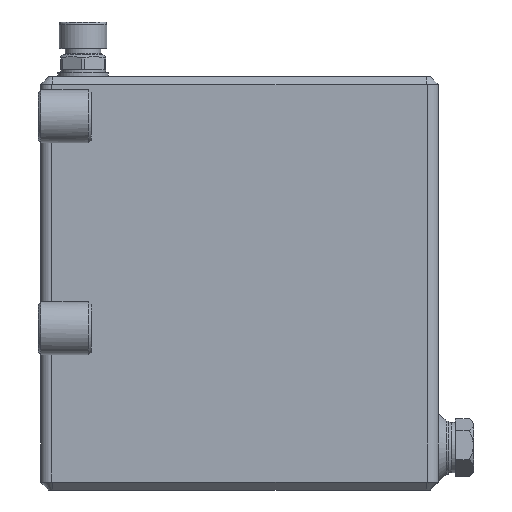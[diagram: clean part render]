
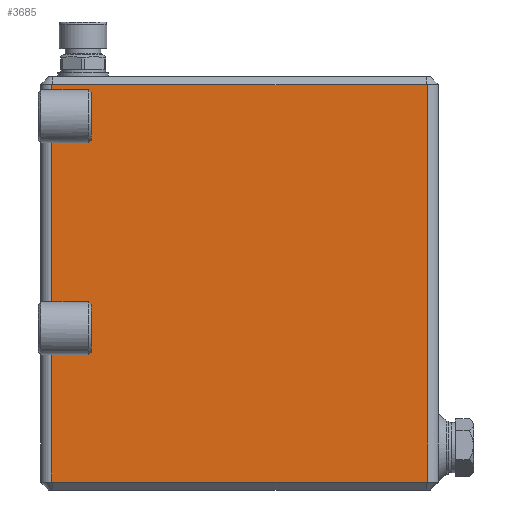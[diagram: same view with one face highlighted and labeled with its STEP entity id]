
A CAD part, left-side view. The second image highlights one B-rep face of the part: STEP entity #3685.
In plain terms, the highlighted planar face has unit normal (-1, 0, 0).
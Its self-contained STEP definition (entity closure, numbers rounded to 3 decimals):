
#72=LINE('',#7799,#291);
#74=LINE('',#7803,#293);
#75=LINE('',#7805,#294);
#77=LINE('',#7809,#296);
#78=LINE('',#7811,#297);
#80=LINE('',#7815,#299);
#81=LINE('',#7817,#300);
#83=LINE('',#7821,#302);
#84=LINE('',#7823,#303);
#85=LINE('',#7825,#304);
#87=LINE('',#7833,#306);
#88=LINE('',#7834,#307);
#89=LINE('',#7836,#308);
#112=LINE('',#7885,#331);
#113=LINE('',#7887,#332);
#121=LINE('',#7941,#340);
#123=LINE('',#7944,#342);
#124=LINE('',#7946,#343);
#291=VECTOR('',#6612,1000.);
#293=VECTOR('',#6616,1000.);
#294=VECTOR('',#6619,1000.);
#296=VECTOR('',#6623,1000.);
#297=VECTOR('',#6626,1000.);
#299=VECTOR('',#6630,1000.);
#300=VECTOR('',#6633,1000.);
#302=VECTOR('',#6637,1000.);
#303=VECTOR('',#6640,1000.);
#304=VECTOR('',#6643,1000.);
#306=VECTOR('',#6649,1000.);
#307=VECTOR('',#6650,1000.);
#308=VECTOR('',#6653,1000.);
#331=VECTOR('',#6708,1000.);
#332=VECTOR('',#6711,1000.);
#340=VECTOR('',#6775,1000.);
#342=VECTOR('',#6779,1000.);
#343=VECTOR('',#6780,1000.);
#1043=ORIENTED_EDGE('',*,*,#1742,.T.);
#1044=ORIENTED_EDGE('',*,*,#1741,.T.);
#1045=ORIENTED_EDGE('',*,*,#1740,.T.);
#1046=ORIENTED_EDGE('',*,*,#1738,.T.);
#1047=ORIENTED_EDGE('',*,*,#1737,.T.);
#1048=ORIENTED_EDGE('',*,*,#1747,.T.);
#1049=ORIENTED_EDGE('',*,*,#1735,.T.);
#1050=ORIENTED_EDGE('',*,*,#1734,.T.);
#1051=ORIENTED_EDGE('',*,*,#1732,.T.);
#1052=ORIENTED_EDGE('',*,*,#1731,.T.);
#1053=ORIENTED_EDGE('',*,*,#1746,.T.);
#1054=ORIENTED_EDGE('',*,*,#1748,.F.);
#1055=ORIENTED_EDGE('',*,*,#1729,.F.);
#1056=ORIENTED_EDGE('',*,*,#1774,.F.);
#1057=ORIENTED_EDGE('',*,*,#1775,.T.);
#1058=ORIENTED_EDGE('',*,*,#1797,.F.);
#1059=ORIENTED_EDGE('',*,*,#1799,.F.);
#1060=ORIENTED_EDGE('',*,*,#1800,.F.);
#1729=EDGE_CURVE('',#2163,#2131,#72,.T.);
#1731=EDGE_CURVE('',#2173,#2130,#74,.T.);
#1732=EDGE_CURVE('',#2116,#2173,#75,.T.);
#1734=EDGE_CURVE('',#2174,#2116,#77,.T.);
#1735=EDGE_CURVE('',#2129,#2174,#78,.T.);
#1737=EDGE_CURVE('',#2175,#2128,#80,.T.);
#1738=EDGE_CURVE('',#2122,#2175,#81,.T.);
#1740=EDGE_CURVE('',#2176,#2122,#83,.T.);
#1741=EDGE_CURVE('',#2127,#2176,#84,.T.);
#1742=EDGE_CURVE('',#2177,#2127,#85,.T.);
#1746=EDGE_CURVE('',#2130,#2180,#87,.T.);
#1747=EDGE_CURVE('',#2128,#2129,#88,.T.);
#1748=EDGE_CURVE('',#2131,#2180,#89,.T.);
#1774=EDGE_CURVE('',#2190,#2163,#112,.T.);
#1775=EDGE_CURVE('',#2190,#2191,#113,.T.);
#1797=EDGE_CURVE('',#2207,#2191,#121,.T.);
#1799=EDGE_CURVE('',#2209,#2207,#123,.T.);
#1800=EDGE_CURVE('',#2177,#2209,#124,.T.);
#2116=VERTEX_POINT('',#7638);
#2122=VERTEX_POINT('',#7653);
#2127=VERTEX_POINT('',#7667);
#2128=VERTEX_POINT('',#7671);
#2129=VERTEX_POINT('',#7675);
#2130=VERTEX_POINT('',#7679);
#2131=VERTEX_POINT('',#7683);
#2163=VERTEX_POINT('',#7768);
#2173=VERTEX_POINT('',#7802);
#2174=VERTEX_POINT('',#7808);
#2175=VERTEX_POINT('',#7814);
#2176=VERTEX_POINT('',#7820);
#2177=VERTEX_POINT('',#7826);
#2180=VERTEX_POINT('',#7832);
#2190=VERTEX_POINT('',#7884);
#2191=VERTEX_POINT('',#7888);
#2207=VERTEX_POINT('',#7939);
#2209=VERTEX_POINT('',#7945);
#2841=EDGE_LOOP('',(#1043,#1044,#1045,#1046,#1047,#1048,#1049,#1050,#1051,
#1052,#1053,#1054,#1055,#1056,#1057,#1058,#1059,#1060));
#3243=FACE_BOUND('',#2841,.T.);
#3486=PLANE('',#5883);
#3685=ADVANCED_FACE('',(#3243),#3486,.F.);
#5883=AXIS2_PLACEMENT_3D('',#7943,#6777,#6778);
#6612=DIRECTION('',(0.,1.,0.));
#6616=DIRECTION('',(0.,1.,0.));
#6619=DIRECTION('',(0.,0.,-1.));
#6623=DIRECTION('',(0.,0.,-1.));
#6626=DIRECTION('',(0.,-1.,0.));
#6630=DIRECTION('',(0.,1.,0.));
#6633=DIRECTION('',(0.,0.,-1.));
#6637=DIRECTION('',(0.,0.,-1.));
#6640=DIRECTION('',(0.,-1.,0.));
#6643=DIRECTION('',(0.,0.,-1.));
#6649=DIRECTION('',(0.,0.,-1.));
#6650=DIRECTION('',(0.,0.,-1.));
#6653=DIRECTION('',(0.,1.,0.));
#6708=DIRECTION('',(0.,1.,0.));
#6711=DIRECTION('',(0.,0.,1.));
#6775=DIRECTION('',(0.,-1.,0.));
#6777=DIRECTION('',(1.,0.,0.));
#6778=DIRECTION('',(0.,1.,0.));
#6779=DIRECTION('',(0.,-1.,0.));
#6780=DIRECTION('',(0.,-1.,0.));
#7638=CARTESIAN_POINT('',(-75.,57.,61.));
#7653=CARTESIAN_POINT('',(-75.,57.,141.));
#7667=CARTESIAN_POINT('',(-75.,71.,147.));
#7671=CARTESIAN_POINT('',(-75.,71.,135.));
#7675=CARTESIAN_POINT('',(-75.,71.,67.));
#7679=CARTESIAN_POINT('',(-75.,71.,55.));
#7683=CARTESIAN_POINT('',(-75.,70.5,3.));
#7768=CARTESIAN_POINT('',(-75.,-70.5,3.));
#7799=CARTESIAN_POINT('',(-75.,-75.,3.));
#7802=CARTESIAN_POINT('',(-75.,57.,55.));
#7803=CARTESIAN_POINT('',(-75.,57.,55.));
#7805=CARTESIAN_POINT('',(-75.,57.,78.));
#7808=CARTESIAN_POINT('',(-75.,57.,67.));
#7809=CARTESIAN_POINT('',(-75.,57.,78.));
#7811=CARTESIAN_POINT('',(-75.,71.,67.));
#7814=CARTESIAN_POINT('',(-75.,57.,135.));
#7815=CARTESIAN_POINT('',(-75.,57.,135.));
#7817=CARTESIAN_POINT('',(-75.,57.,78.));
#7820=CARTESIAN_POINT('',(-75.,57.,147.));
#7821=CARTESIAN_POINT('',(-75.,57.,78.));
#7823=CARTESIAN_POINT('',(-75.,71.,147.));
#7825=CARTESIAN_POINT('',(-75.,71.,153.));
#7826=CARTESIAN_POINT('',(-75.,71.,153.));
#7832=CARTESIAN_POINT('',(-75.,71.,3.));
#7833=CARTESIAN_POINT('',(-75.,71.,153.));
#7834=CARTESIAN_POINT('',(-75.,71.,153.));
#7836=CARTESIAN_POINT('',(-75.,-75.,3.));
#7884=CARTESIAN_POINT('',(-75.,-71.,3.));
#7885=CARTESIAN_POINT('',(-75.,-75.,3.));
#7887=CARTESIAN_POINT('',(-75.,-71.,3.));
#7888=CARTESIAN_POINT('',(-75.,-71.,153.));
#7939=CARTESIAN_POINT('',(-75.,-70.5,153.));
#7941=CARTESIAN_POINT('',(-75.,75.,153.));
#7943=CARTESIAN_POINT('',(-75.,0.,78.));
#7944=CARTESIAN_POINT('',(-75.,75.,153.));
#7945=CARTESIAN_POINT('',(-75.,70.5,153.));
#7946=CARTESIAN_POINT('',(-75.,75.,153.));
